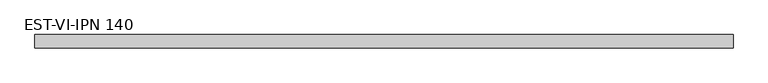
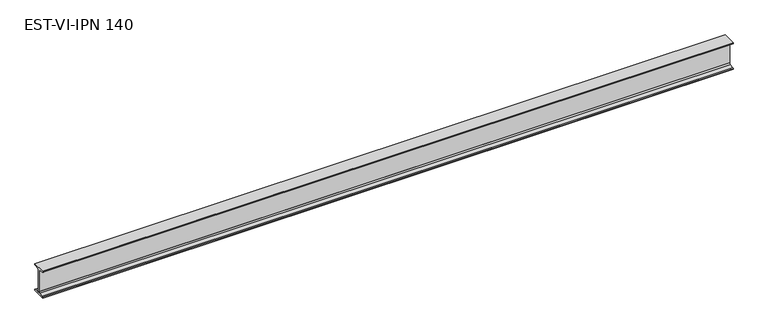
"""IFC4 building model written with IfcOpenShell, lengths in millimetres: beam geometry, EST-VI-PNI-Acero : EST-VI-IPN 140."""

from ifc_helpers import new_model, si_unit, point, frame, frame_2d, origin, place, context, project, spatial, polyline, circle_curve, trimmed, segment, composite_curve, outline, extrude, source, transform, mapped, element, save


def est_vi_ipn_140_41f6773e(model_context):
    return source(origin(), model_context, "Body", "SweptSolid", [
        extrude(outline(composite_curve([segment(polyline([(33.0, 70.0), (33.0, 66.6671583)]), True, "CONTINUOUS"), segment(trimmed(circle_curve(frame_2d((29.6, 66.6671583)), 3.4), [point((33.0, 66.6671583))], [point((30.0714027, 63.2999964))], False, "CARTESIAN"), True, "CONTINUOUS"), segment(polyline([(30.0714027, 63.2999964), (7.7597073, 60.176359)]), True, "CONTINUOUS"), segment(trimmed(circle_curve(frame_2d((8.55, 54.5314111)), 5.7), [point((7.7597073, 60.176359))], [point((2.85, 54.5314111))], True, "CARTESIAN"), True, "CONTINUOUS"), segment(polyline([(2.85, 54.5314111), (2.85, -54.5314111)]), True, "CONTINUOUS"), segment(trimmed(circle_curve(frame_2d((8.55, -54.5314111)), 5.7), [point((2.85, -54.5314111))], [point((7.7597073, -60.176359))], True, "CARTESIAN"), True, "CONTINUOUS"), segment(polyline([(7.7597073, -60.176359), (30.0714027, -63.2999964)]), True, "CONTINUOUS"), segment(trimmed(circle_curve(frame_2d((29.6, -66.6671583)), 3.4), [point((30.0714027, -63.2999964))], [point((33.0, -66.6671583))], False, "CARTESIAN"), True, "CONTINUOUS"), segment(polyline([(33.0, -66.6671583), (33.0, -70.0), (-33.0, -70.0), (-33.0, -66.6671583)]), True, "CONTINUOUS"), segment(trimmed(circle_curve(frame_2d((-29.6, -66.6671583)), 3.4), [point((-33.0, -66.6671583))], [point((-30.0714027, -63.2999964))], False, "CARTESIAN"), True, "CONTINUOUS"), segment(polyline([(-30.0714027, -63.2999964), (-7.7597073, -60.176359)]), True, "CONTINUOUS"), segment(trimmed(circle_curve(frame_2d((-8.55, -54.5314111)), 5.7), [point((-7.7597073, -60.176359))], [point((-2.85, -54.5314111))], True, "CARTESIAN"), True, "CONTINUOUS"), segment(polyline([(-2.85, -54.5314111), (-2.85, 54.5314111)]), True, "CONTINUOUS"), segment(trimmed(circle_curve(frame_2d((-8.55, 54.5314111)), 5.7), [point((-2.85, 54.5314111))], [point((-7.7597073, 60.176359))], True, "CARTESIAN"), True, "CONTINUOUS"), segment(polyline([(-7.7597073, 60.176359), (-30.0714027, 63.2999964)]), True, "CONTINUOUS"), segment(trimmed(circle_curve(frame_2d((-29.6, 66.6671583)), 3.4), [point((-30.0714027, 63.2999964))], [point((-33.0, 66.6671583))], False, "CARTESIAN"), True, "CONTINUOUS"), segment(polyline([(-33.0, 66.6671583), (-33.0, 70.0), (33.0, 70.0)]), True, "CONTINUOUS")], self_intersect=False)), frame((-1710.0, 0.0, 0.0), z_axis=(1.0, 0.0, 0.0), x_axis=(0.0, 1.0, 0.0)), (0.0, 0.0, 1.0), 3405.0),
    ])


if __name__ == "__main__":
    model = new_model("IFC4")
    model_context = context("Model", 3, world=origin())
    ifc_project = project(units=[si_unit("LENGTHUNIT", "METRE", prefix="MILLI")], contexts=[model_context])
    site = spatial("IfcSite", under=ifc_project)
    building = spatial("IfcBuilding", under=site)
    placement = place(None, origin())
    est_vi_ipn_140_shape = est_vi_ipn_140_41f6773e(model_context)
    element("IfcBeam", 1, ObjectType="EST-VI-PNI-Acero : EST-VI-IPN 140", at=placement, inside=building, context=model_context, shape_type="MappedRepresentation", body=[
        mapped(est_vi_ipn_140_shape, transform((0.0, 0.0, 0.0), x_axis=(1.0, 0.0, 0.0), y_axis=(0.0, 1.0, 0.0), z_axis=(0.0, 0.0, 1.0))),
    ])
    save(model, "model.ifc")
